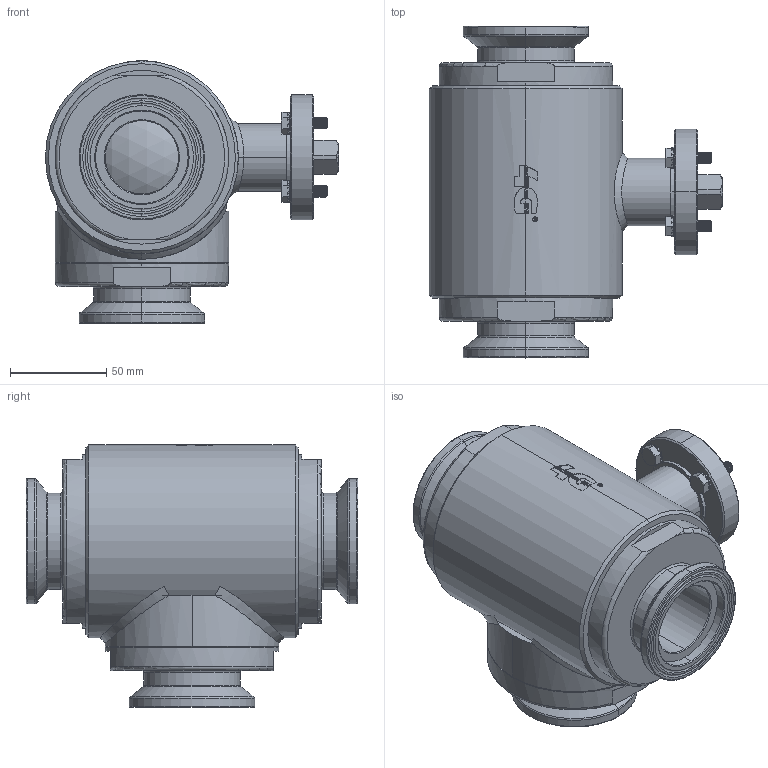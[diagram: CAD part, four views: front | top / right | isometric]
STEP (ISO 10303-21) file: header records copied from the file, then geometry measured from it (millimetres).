
FILE_DESCRIPTION((''),'2;1');
FILE_NAME('31303163410','2018-04-24T',('UFFICIO TECNICO'),('CDM Tecnoconsulting'),'CREO PARAMETRIC BY PTC INC, 2015290','CREO PARAMETRIC BY PTC INC, 2015290','');
FILE_SCHEMA(('CONFIG_CONTROL_DESIGN'));
Products named in the file (1): 31303163410
Bounding box: 152 x 172 x 136 mm (x, y, z)
Surface area: 141584.3 mm2 (no closed solid volume)
Topology: 0 solids, 40 shells, 960 faces, 3290 edges, 2326 vertices
Faces by surface type: cylinder 383, plane 273, cone 138, bspline 107, torus 46, extrusion 12, sphere 1
Entity records: 73247 total; most frequent: CARTESIAN_POINT 46942, ORIENTED_EDGE 5472, DIRECTION 4283, EDGE_CURVE 3285, VERTEX_POINT 2326, AXIS2_PLACEMENT_3D 1588, B_SPLINE_CURVE_WITH_KNOTS 1455, VECTOR 1107
